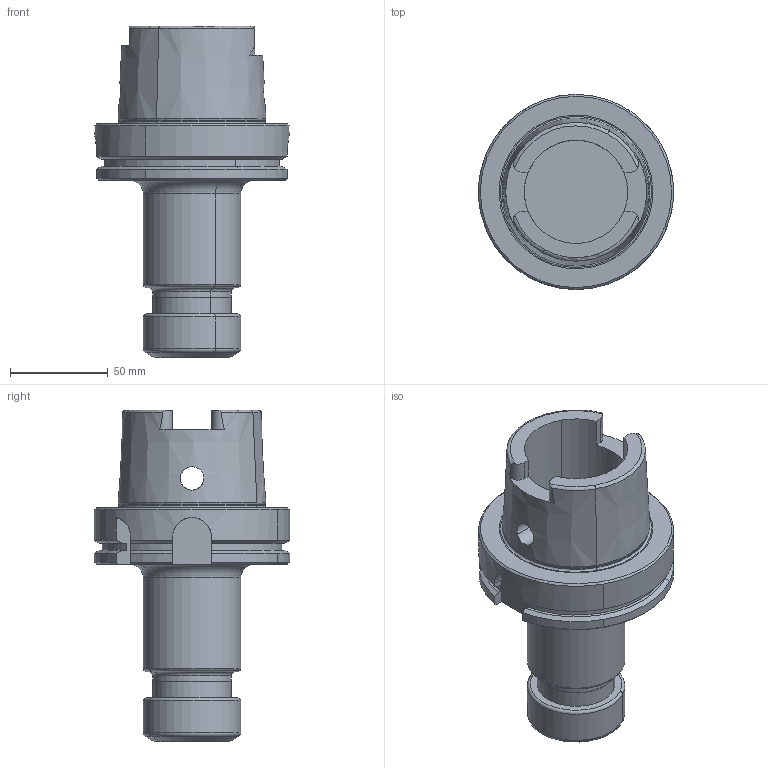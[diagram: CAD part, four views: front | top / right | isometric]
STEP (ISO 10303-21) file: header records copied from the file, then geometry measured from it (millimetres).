
FILE_DESCRIPTION(('CATIA V5 STEP','CAx-IF Rec.Pracs.--- Model Styling and Organization---1.2---2011-12-15'),'2;1');
FILE_NAME('\\nas01\drv1\utils\eitdev\rte\eit\transmagicconvert\db\out\635924133641310023\4561156-D-B.stp','2016-03-01T05:16:15+00:00',('none'),('none'),'CATIA Version 5 Release 21 SP 5 (IN-10)','CATIA V5 STEP AP214','none');
FILE_SCHEMA(('AUTOMOTIVE_DESIGN { 1 0 10303 214 1 1 1 1 }'));
Length unit declared in the file: millimetre
Products named in the file (1): HSK A 100 ER32X120
Bounding box: 100 x 100 x 170 mm (x, y, z)
Volume: 421324.6 mm3; surface area: 65521.6 mm2
Topology: 1 solids, 1 shells, 122 faces, 316 edges, 200 vertices
Faces by surface type: cylinder 34, cone 31, plane 29, torus 20, extrusion 8
Entity records: 3882 total; most frequent: CARTESIAN_POINT 1196, ORIENTED_EDGE 628, DIRECTION 402, EDGE_CURVE 314, AXIS2_PLACEMENT_3D 215, VERTEX_POINT 200, CIRCLE 150, EDGE_LOOP 132
